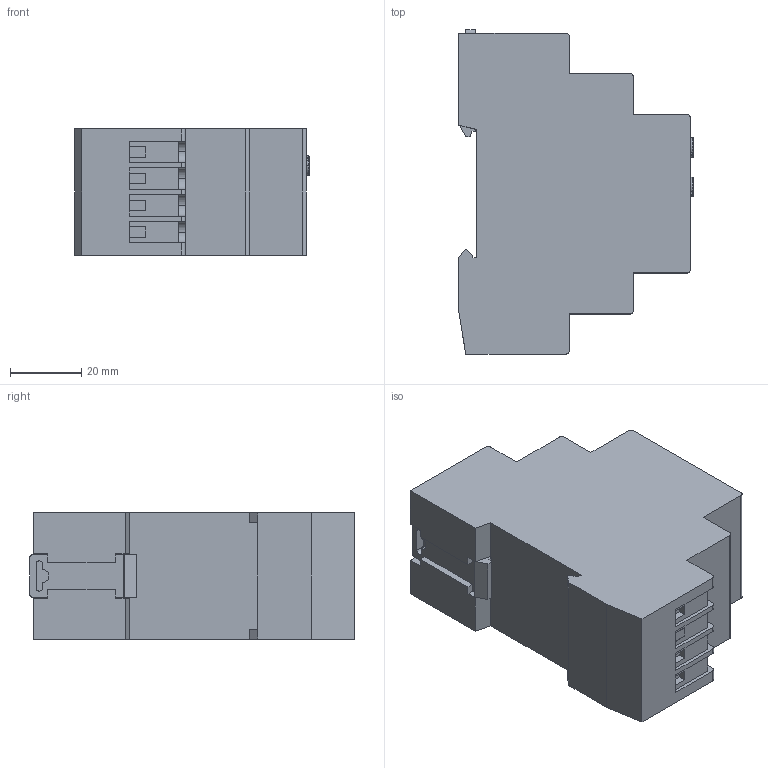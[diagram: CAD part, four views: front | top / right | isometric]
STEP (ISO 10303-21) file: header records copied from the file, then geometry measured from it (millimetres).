
FILE_DESCRIPTION (( 'STEP AP203' ), '1' );
FILE_NAME ('Ðåãóëÿòîð òåìïåðàòóðû RD-Z.STEP', '2021-11-25T20:43:34', ( '' ), ( '' ), 'SwSTEP 2.0', 'SolidWorks 2017', '' );
FILE_SCHEMA (( 'CONFIG_CONTROL_DESIGN' ));
Length unit declared in the file: millimetre
Products named in the file (1): Ðåãóëÿòîð òåìïåðàòóðû RD-Z
Bounding box: 65.8 x 91 x 35.4 mm (x, y, z)
Volume: 157739.8 mm3; surface area: 23197.1 mm2
Topology: 12 solids, 12 shells, 416 faces, 1131 edges, 748 vertices
Faces by surface type: plane 296, cylinder 106, torus 12, sphere 2
Entity records: 13118 total; most frequent: CARTESIAN_POINT 2290, ORIENTED_EDGE 2254, DIRECTION 2201, EDGE_CURVE 1127, LINE 887, VECTOR 887, VERTEX_POINT 746, AXIS2_PLACEMENT_3D 657
